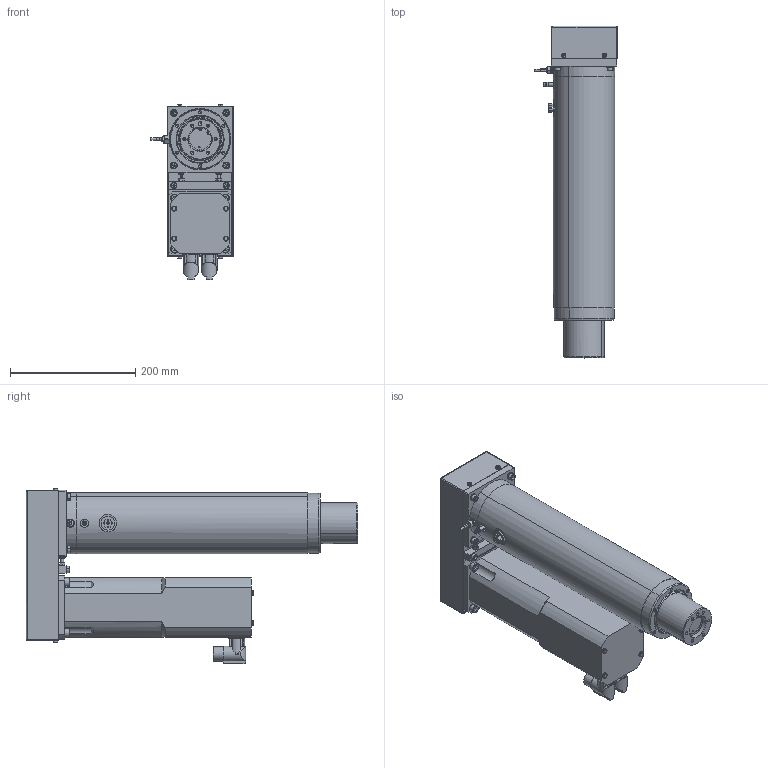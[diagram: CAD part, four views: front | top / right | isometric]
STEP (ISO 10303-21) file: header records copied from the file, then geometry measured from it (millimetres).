
FILE_DESCRIPTION (( 'STEP AP203' ), '1' );
FILE_NAME ('LN5P0100-020-030HG.STEP', '2018-01-29T08:43:23', ( '' ), ( '' ), 'SwSTEP 2.0', 'SolidWorks 2016', '' );
FILE_SCHEMA (( 'CONFIG_CONTROL_DESIGN' ));
Length unit declared in the file: millimetre
Products named in the file (1): LN5P0100-020-030HG
Bounding box: 131.35 x 531 x 280.05 mm (x, y, z)
Volume: 5485330.8 mm3; surface area: 747662.6 mm2
Topology: 38 solids, 38 shells, 1166 faces, 2696 edges, 1626 vertices
Faces by surface type: plane 462, cylinder 431, cone 217, torus 48, bspline 6, sphere 2
Entity records: 34264 total; most frequent: CARTESIAN_POINT 7426, DIRECTION 5916, ORIENTED_EDGE 5212, EDGE_CURVE 2606, AXIS2_PLACEMENT_3D 2313, VERTEX_POINT 1626, EDGE_LOOP 1400, LINE 1290
